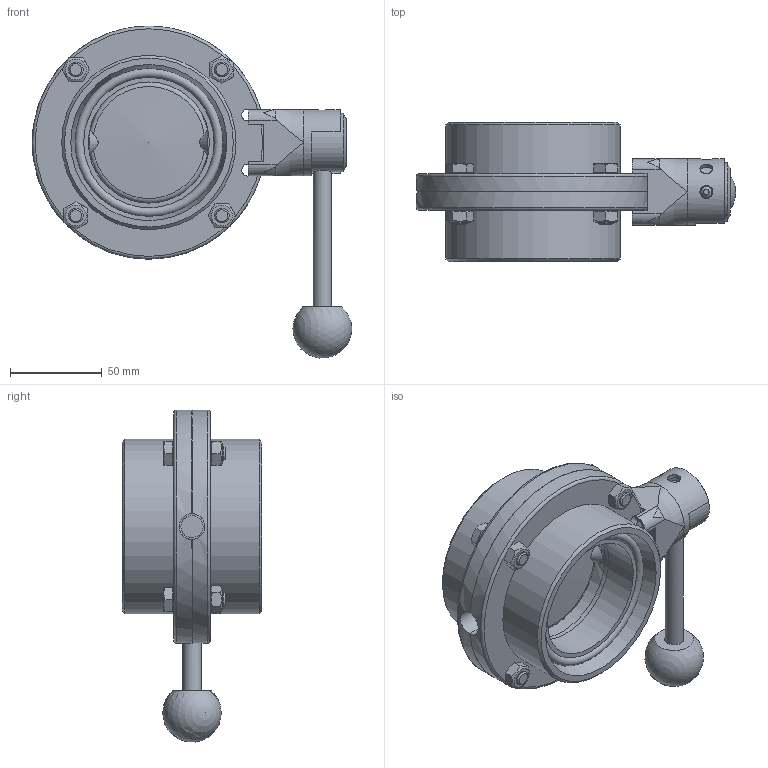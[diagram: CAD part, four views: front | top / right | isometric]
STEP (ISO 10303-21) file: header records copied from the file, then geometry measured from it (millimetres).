
FILE_DESCRIPTION((''),'2;1');
FILE_NAME('K:\2013 konstrukce\4xxxx\43030-KLAPKA PŘÍMÁ G-G\43030-065\43030-065.stp','2019-12-09T14:25:34',('konstrukce'),(''),'Autodesk Inventor 2010','Autodesk Inventor 2010','');
FILE_SCHEMA(('AUTOMOTIVE_DESIGN { 1 0 10303 214 1 1 1 1 }'));
Length unit declared in the file: millimetre
Products named in the file (14): 43030-065; 4329-065-Srdca klapky; 4330-065-Ložisko klapky; 4382-065-NEW-TW-Přírubá klapka-závitová; 20040-065-Těsnění; 4328-065-Těsnění pro klapku; DIN 933 - nahrazený DIN EN 24017 M8  x 28; DIN 934 - nahrazený DIN EN 24032/28673/28674 M8; ovladani 25-65; 43483-025-065 Plášť ovládání malý-Handle cover small; KOULA-25-65; 43481-025-065-9,5 Střed ovládání malý-Handle pivot small; 43482-025-032; 43482-025-32
Assembly tree (22 placements, depth 3):
  43030-065
    4329-065-Srdca klapky
    4330-065-Ložisko klapky  x2
    4382-065-NEW-TW-Přírubá klapka-závitová  x2
    20040-065-Těsnění  x2
    4328-065-Těsnění pro klapku
    DIN 933 - nahrazený DIN EN 24017 M8  x 28  x4
    DIN 934 - nahrazený DIN EN 24032/28673/28674 M8  x4
    ovladani 25-65
      43483-025-065 Plášť ovládání malý-Handle cover small
      KOULA-25-65
      43481-025-065-9,5 Střed ovládání malý-Handle pivot small
      43482-025-032
      43482-025-32
Bounding box: 173.99 x 76 x 180.86 mm (x, y, z)
Volume: 452520 mm3; surface area: 153428.8 mm2
Topology: 21 solids, 21 shells, 339 faces, 808 edges, 512 vertices
Faces by surface type: plane 152, cylinder 80, cone 72, bspline 22, torus 12, sphere 1
Full cylindrical faces by diameter (mm): 6 x1, 6.5 x4, 7 x1, 7.323 x4, 8 x4, 8.5 x11, 10 x2, 10.2 x1, 11.4 x4, 12 x4, 14 x4, 14.1 x1, 31.8 x1, 36 x1, 66 x2, 71 x4, 80.8 x2, 81 x2, 84.6 x2, 85 x1, 95 x2, 127 x2
Entity records: 7113 total; most frequent: CARTESIAN_POINT 2353, DIRECTION 894, ORIENTED_EDGE 804, EDGE_CURVE 402, AXIS2_PLACEMENT_3D 368, EDGE_LOOP 324, VERTEX_POINT 300, FACE_OUTER_BOUND 201
